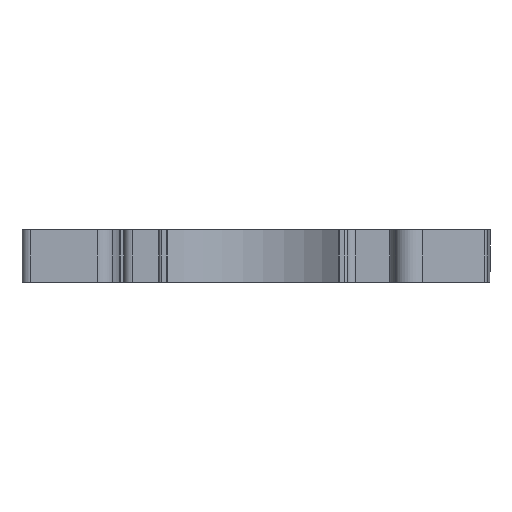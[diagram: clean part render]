
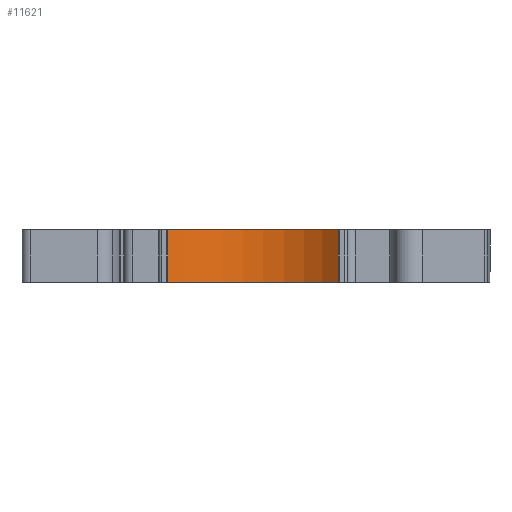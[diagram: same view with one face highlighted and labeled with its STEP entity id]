
A CAD part, front view. The second image highlights one B-rep face of the part: STEP entity #11621.
In plain terms, the highlighted cylindrical face has radius 15 mm (diameter 30 mm), a partial arc.
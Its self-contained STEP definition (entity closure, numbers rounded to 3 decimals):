
#1716=CARTESIAN_POINT('',(27.452,-7.25,6.2));
#1717=DIRECTION('',(0.,0.,1.));
#1718=DIRECTION('',(0.674,0.739,0.));
#1719=AXIS2_PLACEMENT_3D('',#1716,#1717,#1718);
#1838=CARTESIAN_POINT('',(27.452,-7.25,
0.));
#1839=DIRECTION('',(0.,0.,-1.));
#1840=DIRECTION('',(-0.674,0.739,0.));
#1841=AXIS2_PLACEMENT_3D('',#1838,#1839,#1840);
#2361=DIRECTION('',(0.,0.,1.));
#2362=VECTOR('',#2361,6.2);
#2363=CARTESIAN_POINT('',(17.339,3.828,
0.));
#2364=LINE('',#2363,#2362);
#2365=DIRECTION('',(0.,0.,1.));
#2366=VECTOR('',#2365,6.2);
#2367=CARTESIAN_POINT('',(37.565,3.828,
0.));
#2368=LINE('',#2367,#2366);
#7603=CARTESIAN_POINT('',(37.565,3.828,6.2));
#7605=VERTEX_POINT('',#7603);
#7606=CARTESIAN_POINT('',(17.339,3.828,6.2));
#7607=VERTEX_POINT('',#7606);
#7677=CARTESIAN_POINT('',(17.339,3.828,
0.));
#7679=VERTEX_POINT('',#7677);
#7680=CARTESIAN_POINT('',(37.565,3.828,
0.));
#7681=VERTEX_POINT('',#7680);
#11609=CARTESIAN_POINT('',(27.452,-7.25,
-0.124));
#11610=DIRECTION('',(0.,0.,1.));
#11611=DIRECTION('',(1.,0.,0.));
#11612=AXIS2_PLACEMENT_3D('',#11609,#11610,#11611);
#11613=CYLINDRICAL_SURFACE('',#11612,15.);
#11615=ORIENTED_EDGE('',*,*,#11614,.F.);
#11616=ORIENTED_EDGE('',*,*,#11125,.F.);
#11617=ORIENTED_EDGE('',*,*,#11604,.T.);
#11618=ORIENTED_EDGE('',*,*,#10990,.F.);
#11619=EDGE_LOOP('',(#11615,#11616,#11617,#11618));
#11620=FACE_OUTER_BOUND('',#11619,.F.);
#1720=CIRCLE('',#1719,15.);
#1842=CIRCLE('',#1841,15.);
#10990=EDGE_CURVE('',#7605,#7607,#1720,.T.);
#11125=EDGE_CURVE('',#7679,#7681,#1842,.T.);
#11604=EDGE_CURVE('',#7679,#7607,#2364,.T.);
#11614=EDGE_CURVE('',#7681,#7605,#2368,.T.);
#11621=ADVANCED_FACE('',(#11620),#11613,.F.);
